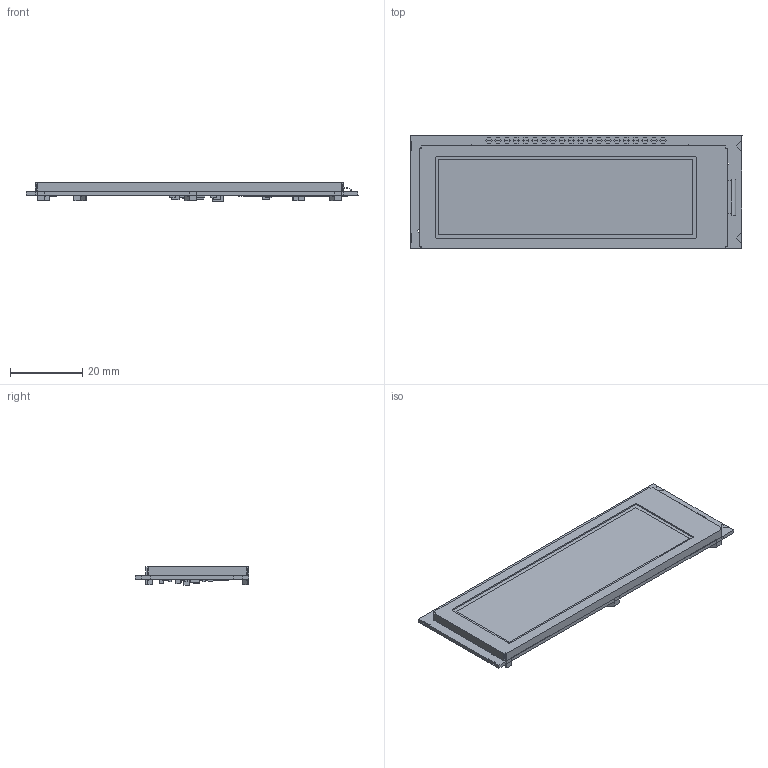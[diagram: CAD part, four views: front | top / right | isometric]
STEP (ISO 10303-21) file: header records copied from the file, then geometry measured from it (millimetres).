
FILE_DESCRIPTION (( 'STEP AP203' ), '1' );
FILE_NAME ('NHD-0420CW.STEP', '2024-09-23T20:28:32', ( '' ), ( '' ), 'SwSTEP 2.0', 'SolidWorks 2019', '' );
FILE_SCHEMA (( 'CONFIG_CONTROL_DESIGN' ));
Products named in the file (2): NHD-0420CW
Bounding box: 92 x 31.5 x 5.2 mm (x, y, z)
Topology: 0 solids, 26 shells, 1716 faces, 4491 edges, 2974 vertices
Faces by surface type: plane 1055, bspline 437, cylinder 224
Entity records: 64774 total; most frequent: CARTESIAN_POINT 28272, ORIENTED_EDGE 8944, DIRECTION 4863, EDGE_CURVE 4496, VERTEX_POINT 2976, B_SPLINE_CURVE_WITH_KNOTS 2408, EDGE_LOOP 1940, LINE 1777
